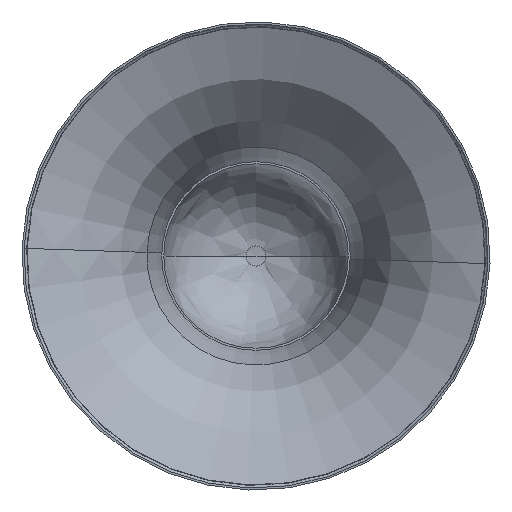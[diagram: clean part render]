
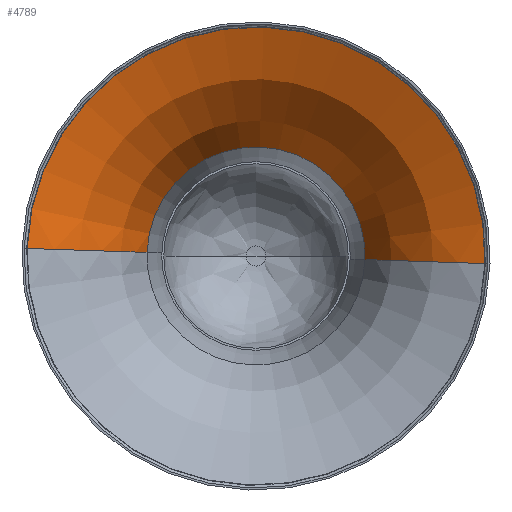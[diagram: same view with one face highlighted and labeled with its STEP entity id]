
A CAD part, front view. The second image highlights one B-rep face of the part: STEP entity #4789.
In plain terms, the highlighted toroidal (fillet/blend) face has major radius 133.343 mm and minor radius 83 mm.
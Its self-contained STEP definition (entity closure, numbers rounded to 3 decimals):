
#104 = CARTESIAN_POINT ( 'NONE',  ( 0., 84.151, 0. ) ) ;
#550 = DIRECTION ( 'NONE',  ( 1., 0., 0. ) ) ;
#830 = CIRCLE ( 'NONE', #9072, 113.967 ) ;
#973 = DIRECTION ( 'NONE',  ( -1., 0., 0. ) ) ;
#1637 = EDGE_CURVE ( 'NONE', #3513, #5114, #830, .T. ) ;
#1803 = DIRECTION ( 'NONE',  ( 0., 1., 0. ) ) ;
#1826 = TOROIDAL_SURFACE ( 'NONE', #2310, 133.343, 83. ) ;
#1976 = ORIENTED_EDGE ( 'NONE', *, *, #3199, .T. ) ;
#2295 = DIRECTION ( 'NONE',  ( 0., 0., 1. ) ) ;
#2310 = AXIS2_PLACEMENT_3D ( 'NONE', #104, #1803, #973 ) ;
#2743 = CIRCLE ( 'NONE', #4019, 54.252 ) ;
#3199 = EDGE_CURVE ( 'NONE', #7994, #3685, #2743, .T. ) ;
#3313 = CARTESIAN_POINT ( 'NONE',  ( 0., 3.445, 0. ) ) ;
#3513 = VERTEX_POINT ( 'NONE', #6115 ) ;
#3685 = VERTEX_POINT ( 'NONE', #6409 ) ;
#3715 = DIRECTION ( 'NONE',  ( 0., 1., 0. ) ) ;
#4019 = AXIS2_PLACEMENT_3D ( 'NONE', #9776, #3715, #9130 ) ;
#4789 = ADVANCED_FACE ( 'NONE', ( #5539 ), #1826, .T. ) ;
#4894 = DIRECTION ( 'NONE',  ( -1., 0., 0. ) ) ;
#5114 = VERTEX_POINT ( 'NONE', #7761 ) ;
#5328 = ORIENTED_EDGE ( 'NONE', *, *, #6224, .F. ) ;
#5539 = FACE_OUTER_BOUND ( 'NONE', #9491, .T. ) ;
#6115 = CARTESIAN_POINT ( 'NONE',  ( 113.967, 3.445, 0. ) ) ;
#6132 = ORIENTED_EDGE ( 'NONE', *, *, #1637, .F. ) ;
#6224 = EDGE_CURVE ( 'NONE', #7994, #3513, #6649, .T. ) ;
#6338 = DIRECTION ( 'NONE',  ( 0., 1., 0. ) ) ;
#6409 = CARTESIAN_POINT ( 'NONE',  ( -54.252, 58.978, 0. ) ) ;
#6649 = CIRCLE ( 'NONE', #7773, 83. ) ;
#7262 = CARTESIAN_POINT ( 'NONE',  ( 54.252, 58.978, 0. ) ) ;
#7411 = CARTESIAN_POINT ( 'NONE',  ( 133.343, 84.151, 0. ) ) ;
#7719 = EDGE_CURVE ( 'NONE', #3685, #5114, #9372, .T. ) ;
#7761 = CARTESIAN_POINT ( 'NONE',  ( -113.967, 3.445, 0. ) ) ;
#7773 = AXIS2_PLACEMENT_3D ( 'NONE', #7411, #2295, #550 ) ;
#7974 = ORIENTED_EDGE ( 'NONE', *, *, #7719, .T. ) ;
#7994 = VERTEX_POINT ( 'NONE', #7262 ) ;
#8426 = CARTESIAN_POINT ( 'NONE',  ( -133.343, 84.151, 0. ) ) ;
#8562 = DIRECTION ( 'NONE',  ( -1., 0., 0. ) ) ;
#8905 = AXIS2_PLACEMENT_3D ( 'NONE', #8426, #9451, #8562 ) ;
#9072 = AXIS2_PLACEMENT_3D ( 'NONE', #3313, #6338, #4894 ) ;
#9130 = DIRECTION ( 'NONE',  ( -1., 0., 0. ) ) ;
#9372 = CIRCLE ( 'NONE', #8905, 83. ) ;
#9451 = DIRECTION ( 'NONE',  ( 0., 0., -1. ) ) ;
#9491 = EDGE_LOOP ( 'NONE', ( #5328, #1976, #7974, #6132 ) ) ;
#9776 = CARTESIAN_POINT ( 'NONE',  ( 0., 58.978, 0. ) ) ;
